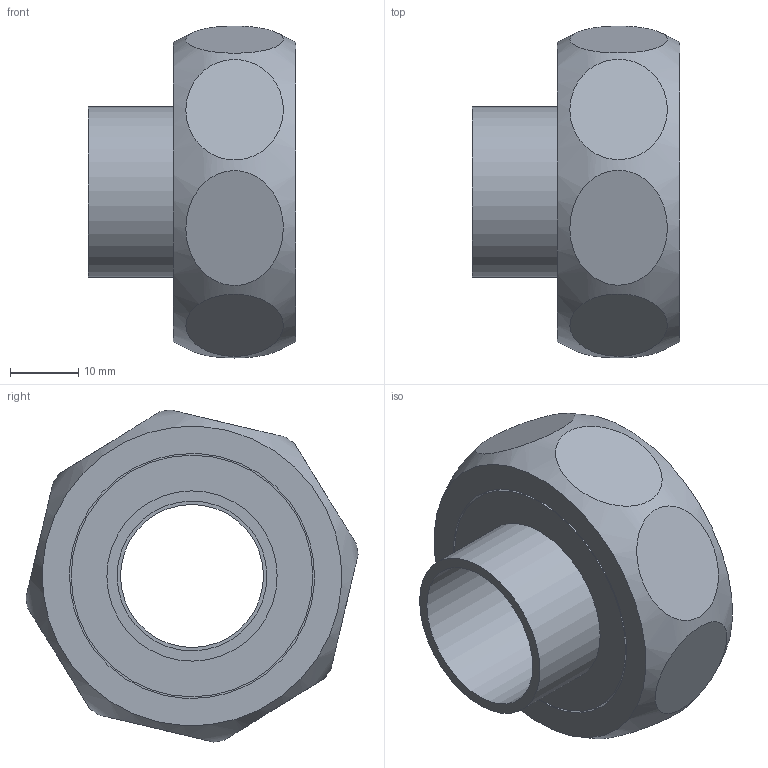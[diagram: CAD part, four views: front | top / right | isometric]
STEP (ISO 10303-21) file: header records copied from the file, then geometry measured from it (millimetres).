
FILE_DESCRIPTION(/* description */ (''),/* implementation_level */ '2;1');
FILE_NAME(/* name */ '14359_22-114(1).stp',/* time_stamp */ '2025-03-27T13:48:29+01:00',/* author */ ('gomulka'),/* organization */ (''),/* preprocessor_version */ 'ST-DEVELOPER v20',/* originating_system */ 'Autodesk Inventor 2024',/* authorisation */ '');
FILE_SCHEMA (('AUTOMOTIVE_DESIGN { 1 0 10303 214 3 1 1 }'));
Length unit declared in the file: millimetre
Products named in the file (4): 14359g_22-114(1); R14374_114(0); 1DCU114; 14372_22-114(1)
Assembly tree (3 placements, depth 2):
  14359g_22-114(1)
    R14374_114(0)
    1DCU114
    14372_22-114(1)
Bounding box: 30.5 x 48.75 x 48.75 mm (x, y, z)
Volume: 17568 mm3; surface area: 12228.9 mm2
Topology: 3 solids, 3 shells, 29 faces, 43 edges, 31 vertices
Faces by surface type: plane 18, cylinder 9, cone 1, bspline 1
Full cylindrical faces by diameter (mm): 21 x1, 22 x1, 25 x1, 27 x1, 35.5 x1, 36 x1, 38 x1, 38.5 x1, 38.952 x1
Entity records: 1353 total; most frequent: CARTESIAN_POINT 661, DIRECTION 124, ORIENTED_EDGE 86, AXIS2_PLACEMENT_3D 57, EDGE_LOOP 46, EDGE_CURVE 43, VERTEX_POINT 31, FACE_OUTER_BOUND 29
